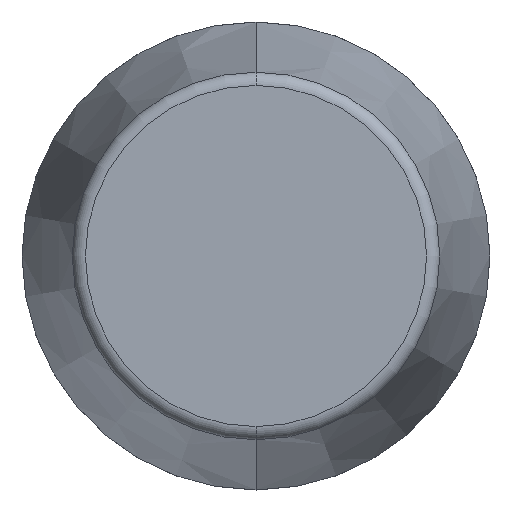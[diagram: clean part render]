
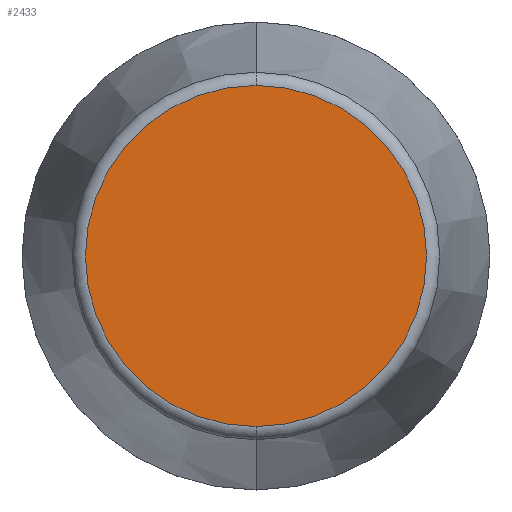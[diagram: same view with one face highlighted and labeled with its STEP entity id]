
A CAD part, front view. The second image highlights one B-rep face of the part: STEP entity #2433.
In plain terms, the highlighted planar face has unit normal (0, -1, 0).
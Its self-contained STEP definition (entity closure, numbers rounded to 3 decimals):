
#199 = CARTESIAN_POINT ( 'NONE',  ( 0., 0., 0. ) ) ;
#394 = VERTEX_POINT ( 'NONE', #3584 ) ;
#407 = VERTEX_POINT ( 'NONE', #6097 ) ;
#784 = EDGE_CURVE ( 'NONE', #394, #407, #6443, .T. ) ;
#813 = CARTESIAN_POINT ( 'NONE',  ( 0., 0., 0. ) ) ;
#1425 = CIRCLE ( 'NONE', #2790, 25.387 ) ;
#1721 = DIRECTION ( 'NONE',  ( 0., -1., 0. ) ) ;
#1801 = DIRECTION ( 'NONE',  ( 0., -1., 0. ) ) ;
#1812 = AXIS2_PLACEMENT_3D ( 'NONE', #199, #2199, #4211 ) ;
#1865 = FACE_OUTER_BOUND ( 'NONE', #5483, .T. ) ;
#2023 = AXIS2_PLACEMENT_3D ( 'NONE', #813, #1801, #5825 ) ;
#2199 = DIRECTION ( 'NONE',  ( 0., -1., 0. ) ) ;
#2397 = ORIENTED_EDGE ( 'NONE', *, *, #784, .T. ) ;
#2433 = ADVANCED_FACE ( 'NONE', ( #1865 ), #6321, .T. ) ;
#2790 = AXIS2_PLACEMENT_3D ( 'NONE', #6175, #1721, #4252 ) ;
#3584 = CARTESIAN_POINT ( 'NONE',  ( 0., 0., 25.387 ) ) ;
#4211 = DIRECTION ( 'NONE',  ( 0., 0., -1. ) ) ;
#4252 = DIRECTION ( 'NONE',  ( 0., 0., -1. ) ) ;
#4376 = ORIENTED_EDGE ( 'NONE', *, *, #5335, .T. ) ;
#5335 = EDGE_CURVE ( 'NONE', #407, #394, #1425, .T. ) ;
#5483 = EDGE_LOOP ( 'NONE', ( #4376, #2397 ) ) ;
#5825 = DIRECTION ( 'NONE',  ( 0., 0., -1. ) ) ;
#6097 = CARTESIAN_POINT ( 'NONE',  ( 0., 0., -25.387 ) ) ;
#6175 = CARTESIAN_POINT ( 'NONE',  ( 0., 0., 0. ) ) ;
#6321 = PLANE ( 'NONE',  #2023 ) ;
#6443 = CIRCLE ( 'NONE', #1812, 25.387 ) ;
